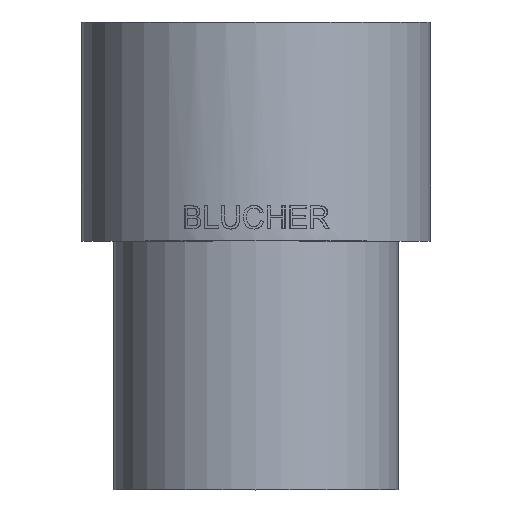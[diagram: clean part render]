
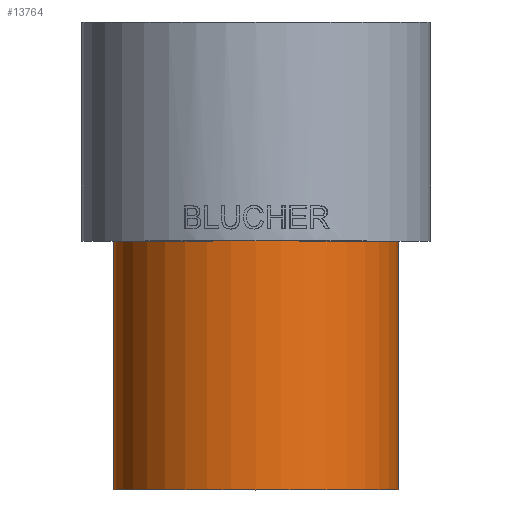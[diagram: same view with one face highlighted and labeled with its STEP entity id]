
A CAD part, top view. The second image highlights one B-rep face of the part: STEP entity #13764.
In plain terms, the highlighted cylindrical face has radius 38.1 mm (diameter 76.2 mm), a full revolution.
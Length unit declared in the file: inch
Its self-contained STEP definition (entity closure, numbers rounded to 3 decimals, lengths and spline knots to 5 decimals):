
#13733=CARTESIAN_POINT('',(1.5,2.625,0.0));
#13734=VERTEX_POINT('',#13733);
#13735=CARTESIAN_POINT('',(0.0,2.625,0.0));
#13736=DIRECTION('',(0.0,-1.0,0.0));
#13737=DIRECTION('',(1.0,0.0,0.0));
#13738=AXIS2_PLACEMENT_3D('',#13735,#13736,#13737);
#13739=CIRCLE('',#13738,1.5);
#13740=EDGE_CURVE('',#13734,#13734,#13739,.T.);
#13745=CARTESIAN_POINT('',(0.0,1.3125,0.0));
#13746=DIRECTION('',(0.0,-1.0,0.0));
#13747=DIRECTION('',(1.0,0.0,0.0));
#13748=AXIS2_PLACEMENT_3D('',#13745,#13746,#13747);
#13749=CYLINDRICAL_SURFACE('',#13748,1.5);
#13750=CARTESIAN_POINT('',(1.5,0.0,0.0));
#13751=VERTEX_POINT('',#13750);
#13752=CARTESIAN_POINT('',(0.0,0.0,0.0));
#13753=DIRECTION('',(0.0,-1.0,0.0));
#13754=DIRECTION('',(1.0,0.0,0.0));
#13755=AXIS2_PLACEMENT_3D('',#13752,#13753,#13754);
#13756=CIRCLE('',#13755,1.5);
#13757=EDGE_CURVE('',#13751,#13751,#13756,.T.);
#13758=ORIENTED_EDGE('',*,*,#13757,.F.);
#13759=EDGE_LOOP('',(#13758));
#13760=FACE_OUTER_BOUND('',#13759,.T.);
#13761=ORIENTED_EDGE('',*,*,#13740,.T.);
#13762=EDGE_LOOP('',(#13761));
#13763=FACE_BOUND('',#13762,.T.);
#13764=ADVANCED_FACE('',(#13760,#13763),#13749,.T.);
